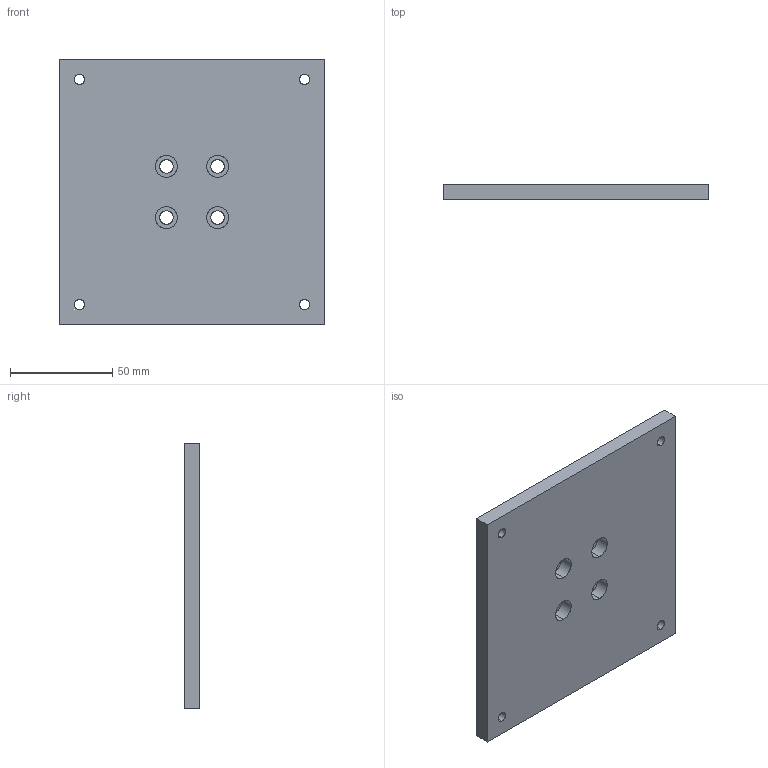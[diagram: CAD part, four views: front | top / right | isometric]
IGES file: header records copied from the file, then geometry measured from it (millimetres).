
Start section: SolidWorks IGES file using analytic representation for surfaces
Global section: file name: D:\RUSH3Dproject\07mechcomponent\ver3\4d_sensor_ver_5axis\Duralumin printed pieces\bottomholder\plate2.IGS; native system: SolidWorks 2021; preprocessor: SolidWorks 2021; author: BBNC; date: 220312.180600; units: millimetre
Bounding box: 130 x 7.5 x 130 mm (x, y, z)
Surface area: 38705.6 mm2 (no closed solid volume)
Topology: 0 solids, 0 shells, 34 faces, 888 edges, 888 vertices
Faces by surface type: revolution 24, bspline 10
